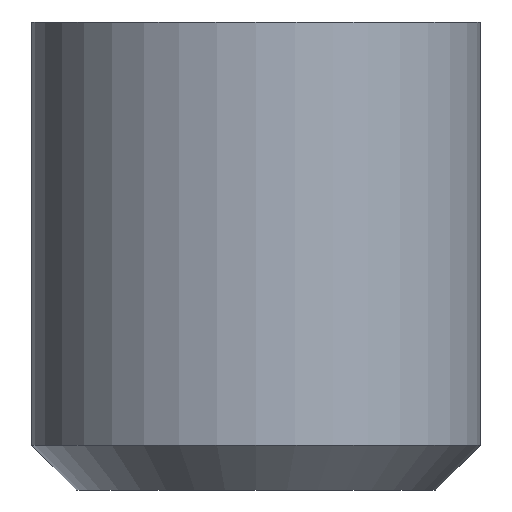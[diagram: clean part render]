
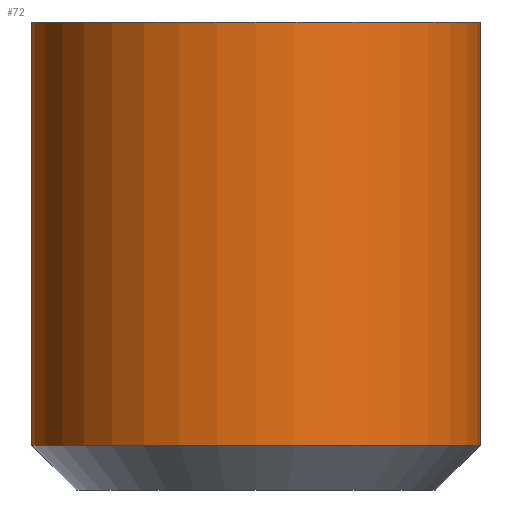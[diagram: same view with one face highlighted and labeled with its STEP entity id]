
A CAD part, front view. The second image highlights one B-rep face of the part: STEP entity #72.
In plain terms, the highlighted cylindrical face has radius 6.526 mm (diameter 13.052 mm), a full revolution.
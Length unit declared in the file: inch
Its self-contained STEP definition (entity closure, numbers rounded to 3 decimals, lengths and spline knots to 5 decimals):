
#60=CYLINDRICAL_SURFACE('',#186,0.25693);
#62=B_SPLINE_CURVE_WITH_KNOTS('',3,(#240,#241,#242,#243,#244,#245,#246,
#247),.UNSPECIFIED.,.F.,.F.,(4,2,2,4),(0.,0.5,0.75,1.),.UNSPECIFIED.);
#63=B_SPLINE_CURVE_WITH_KNOTS('',3,(#252,#253,#254,#255,#256,#257,#258,
#259,#260,#261,#262,#263,#264,#265,#266,#267,#268,#269,#270),
 .UNSPECIFIED.,.F.,.F.,(4,3,3,3,3,3,4),(0.,0.06625,0.13179,
0.2341,0.41432,0.7358,1.),.UNSPECIFIED.);
#64=B_SPLINE_CURVE_WITH_KNOTS('',3,(#272,#273,#274,#275,#276,#277,#278,
#279,#280,#281),.UNSPECIFIED.,.F.,.F.,(4,3,3,4),(0.,0.25,0.5,
1.),.UNSPECIFIED.);
#65=B_SPLINE_CURVE_WITH_KNOTS('',3,(#283,#284,#285,#286,#287,#288,#289,
#290),.UNSPECIFIED.,.F.,.F.,(4,2,2,4),(0.,0.5,0.75,1.),.UNSPECIFIED.);
#66=B_SPLINE_CURVE_WITH_KNOTS('',3,(#294,#295,#296,#297,#298,#299,#300,
#301,#302,#303,#304,#305,#306,#307,#308,#309,#310,#311,#312),
 .UNSPECIFIED.,.F.,.F.,(4,3,3,3,3,3,4),(0.,0.06625,0.13179,
0.2341,0.41432,0.7358,1.),.UNSPECIFIED.);
#67=B_SPLINE_CURVE_WITH_KNOTS('',3,(#314,#315,#316,#317,#318,#319,#320,
#321,#322,#323),.UNSPECIFIED.,.F.,.F.,(4,3,3,4),(0.,0.25,0.5,
1.),.UNSPECIFIED.);
#72=ADVANCED_FACE('',(#85,#86,#87),#60,.T.);
#85=FACE_BOUND('',#94,.T.);
#86=FACE_BOUND('',#95,.T.);
#87=FACE_BOUND('',#96,.T.);
#94=EDGE_LOOP('',(#110,#111,#112,#113,#114,#115,#116,#117));
#95=EDGE_LOOP('',(#118));
#96=EDGE_LOOP('',(#119));
#110=ORIENTED_EDGE('',*,*,#157,.F.);
#111=ORIENTED_EDGE('',*,*,#158,.F.);
#112=ORIENTED_EDGE('',*,*,#159,.F.);
#113=ORIENTED_EDGE('',*,*,#160,.F.);
#114=ORIENTED_EDGE('',*,*,#161,.F.);
#115=ORIENTED_EDGE('',*,*,#162,.F.);
#116=ORIENTED_EDGE('',*,*,#163,.F.);
#117=ORIENTED_EDGE('',*,*,#164,.F.);
#118=ORIENTED_EDGE('',*,*,#165,.T.);
#119=ORIENTED_EDGE('',*,*,#155,.F.);
#142=VERTEX_POINT('',#236);
#144=VERTEX_POINT('',#248);
#145=VERTEX_POINT('',#249);
#146=VERTEX_POINT('',#251);
#147=VERTEX_POINT('',#271);
#148=VERTEX_POINT('',#282);
#149=VERTEX_POINT('',#291);
#150=VERTEX_POINT('',#293);
#151=VERTEX_POINT('',#313);
#152=VERTEX_POINT('',#325);
#155=EDGE_CURVE('',#142,#142,#172,.T.);
#157=EDGE_CURVE('',#144,#145,#62,.T.);
#158=EDGE_CURVE('',#146,#144,#174,.T.);
#159=EDGE_CURVE('',#147,#146,#63,.T.);
#160=EDGE_CURVE('',#148,#147,#64,.T.);
#161=EDGE_CURVE('',#149,#148,#65,.T.);
#162=EDGE_CURVE('',#150,#149,#175,.T.);
#163=EDGE_CURVE('',#151,#150,#66,.T.);
#164=EDGE_CURVE('',#145,#151,#67,.T.);
#165=EDGE_CURVE('',#152,#152,#176,.T.);
#172=CIRCLE('',#180,0.25693);
#174=CIRCLE('',#183,0.25693);
#175=CIRCLE('',#184,0.25693);
#176=CIRCLE('',#185,0.25693);
#180=AXIS2_PLACEMENT_3D('',#235,#197,#198);
#183=AXIS2_PLACEMENT_3D('',#250,#203,#204);
#184=AXIS2_PLACEMENT_3D('',#292,#205,#206);
#185=AXIS2_PLACEMENT_3D('',#324,#207,#208);
#186=AXIS2_PLACEMENT_3D('',#326,#209,#210);
#197=DIRECTION('',(0.,0.,-1.));
#198=DIRECTION('',(-1.,0.,0.));
#203=DIRECTION('',(0.,0.,-1.));
#204=DIRECTION('',(1.,0.,0.));
#205=DIRECTION('',(0.,0.,1.));
#206=DIRECTION('',(-1.,0.,0.));
#207=DIRECTION('',(0.,0.,-1.));
#208=DIRECTION('',(-1.,0.,0.));
#209=DIRECTION('',(0.,0.,-1.));
#210=DIRECTION('',(-1.,0.,0.));
#235=CARTESIAN_POINT('',(0.,0.,0.0513));
#236=CARTESIAN_POINT('',(-0.25693,0.,0.0513));
#240=CARTESIAN_POINT('',(0.01682,0.25638,0.48126));
#241=CARTESIAN_POINT('',(0.0398,0.25487,0.48061));
#242=CARTESIAN_POINT('',(0.06217,0.25032,0.47994));
#243=CARTESIAN_POINT('',(0.09434,0.23925,0.47301));
#244=CARTESIAN_POINT('',(0.10455,0.2349,0.46943));
#245=CARTESIAN_POINT('',(0.12224,0.2262,0.4574));
#246=CARTESIAN_POINT('',(0.12991,0.22167,0.44769));
#247=CARTESIAN_POINT('',(0.12992,0.22166,0.43598));
#248=CARTESIAN_POINT('',(0.01682,0.25638,0.48126));
#249=CARTESIAN_POINT('',(0.12992,0.22166,0.43598));
#250=CARTESIAN_POINT('',(0.,0.,0.48126));
#251=CARTESIAN_POINT('',(-0.01682,0.25638,0.48126));
#252=CARTESIAN_POINT('',(-0.12992,0.22166,0.43598));
#253=CARTESIAN_POINT('',(-0.12991,0.22166,0.43903));
#254=CARTESIAN_POINT('',(-0.12938,0.22198,0.44213));
#255=CARTESIAN_POINT('',(-0.12842,0.22253,0.44497));
#256=CARTESIAN_POINT('',(-0.12745,0.22309,0.44779));
#257=CARTESIAN_POINT('',(-0.12605,0.22389,0.45044));
#258=CARTESIAN_POINT('',(-0.1244,0.2248,0.45281));
#259=CARTESIAN_POINT('',(-0.12184,0.22622,0.4565));
#260=CARTESIAN_POINT('',(-0.11859,0.22796,0.45962));
#261=CARTESIAN_POINT('',(-0.11508,0.22971,0.46222));
#262=CARTESIAN_POINT('',(-0.10891,0.2328,0.46678));
#263=CARTESIAN_POINT('',(-0.10178,0.23604,0.46998));
#264=CARTESIAN_POINT('',(-0.09443,0.23895,0.47241));
#265=CARTESIAN_POINT('',(-0.08138,0.2441,0.47672));
#266=CARTESIAN_POINT('',(-0.06708,0.24845,0.47809));
#267=CARTESIAN_POINT('',(-0.05276,0.25145,0.47925));
#268=CARTESIAN_POINT('',(-0.04094,0.25393,0.48021));
#269=CARTESIAN_POINT('',(-0.0289,0.25559,0.48092));
#270=CARTESIAN_POINT('',(-0.01682,0.25638,0.48126));
#271=CARTESIAN_POINT('',(-0.12992,0.22166,0.43598));
#272=CARTESIAN_POINT('',(-0.12992,0.22166,0.35854));
#273=CARTESIAN_POINT('',(-0.12992,0.22166,0.365));
#274=CARTESIAN_POINT('',(-0.12992,0.22166,0.37145));
#275=CARTESIAN_POINT('',(-0.12992,0.22166,0.3779));
#276=CARTESIAN_POINT('',(-0.12993,0.22166,0.38436));
#277=CARTESIAN_POINT('',(-0.12993,0.22166,0.39081));
#278=CARTESIAN_POINT('',(-0.12993,0.22166,0.39726));
#279=CARTESIAN_POINT('',(-0.12993,0.22166,0.41017));
#280=CARTESIAN_POINT('',(-0.12992,0.22166,0.42308));
#281=CARTESIAN_POINT('',(-0.12992,0.22166,0.43598));
#282=CARTESIAN_POINT('',(-0.12992,0.22166,0.35854));
#283=CARTESIAN_POINT('',(-0.01682,0.25638,0.31327));
#284=CARTESIAN_POINT('',(-0.0398,0.25487,0.31392));
#285=CARTESIAN_POINT('',(-0.06217,0.25032,0.31459));
#286=CARTESIAN_POINT('',(-0.09434,0.23925,0.32152));
#287=CARTESIAN_POINT('',(-0.10455,0.2349,0.3251));
#288=CARTESIAN_POINT('',(-0.12224,0.2262,0.33712));
#289=CARTESIAN_POINT('',(-0.12991,0.22167,0.34684));
#290=CARTESIAN_POINT('',(-0.12992,0.22166,0.35854));
#291=CARTESIAN_POINT('',(-0.01682,0.25638,0.31327));
#292=CARTESIAN_POINT('',(0.,0.,0.31327));
#293=CARTESIAN_POINT('',(0.01682,0.25638,0.31327));
#294=CARTESIAN_POINT('',(0.12992,0.22166,0.35854));
#295=CARTESIAN_POINT('',(0.12991,0.22166,0.35549));
#296=CARTESIAN_POINT('',(0.12938,0.22198,0.3524));
#297=CARTESIAN_POINT('',(0.12842,0.22253,0.34956));
#298=CARTESIAN_POINT('',(0.12745,0.22309,0.34674));
#299=CARTESIAN_POINT('',(0.12605,0.22389,0.34409));
#300=CARTESIAN_POINT('',(0.1244,0.2248,0.34172));
#301=CARTESIAN_POINT('',(0.12184,0.22622,0.33803));
#302=CARTESIAN_POINT('',(0.11859,0.22796,0.3349));
#303=CARTESIAN_POINT('',(0.11508,0.22971,0.33231));
#304=CARTESIAN_POINT('',(0.10891,0.2328,0.32775));
#305=CARTESIAN_POINT('',(0.10178,0.23604,0.32455));
#306=CARTESIAN_POINT('',(0.09443,0.23895,0.32212));
#307=CARTESIAN_POINT('',(0.08138,0.2441,0.31781));
#308=CARTESIAN_POINT('',(0.06708,0.24845,0.31644));
#309=CARTESIAN_POINT('',(0.05276,0.25145,0.31528));
#310=CARTESIAN_POINT('',(0.04094,0.25393,0.31432));
#311=CARTESIAN_POINT('',(0.0289,0.25559,0.31361));
#312=CARTESIAN_POINT('',(0.01682,0.25638,0.31327));
#313=CARTESIAN_POINT('',(0.12992,0.22166,0.35854));
#314=CARTESIAN_POINT('',(0.12992,0.22166,0.43598));
#315=CARTESIAN_POINT('',(0.12992,0.22166,0.42953));
#316=CARTESIAN_POINT('',(0.12992,0.22166,0.42308));
#317=CARTESIAN_POINT('',(0.12992,0.22166,0.41662));
#318=CARTESIAN_POINT('',(0.12993,0.22166,0.41017));
#319=CARTESIAN_POINT('',(0.12993,0.22166,0.40372));
#320=CARTESIAN_POINT('',(0.12993,0.22166,0.39726));
#321=CARTESIAN_POINT('',(0.12993,0.22166,0.38436));
#322=CARTESIAN_POINT('',(0.12992,0.22166,0.37145));
#323=CARTESIAN_POINT('',(0.12992,0.22166,0.35854));
#324=CARTESIAN_POINT('',(0.,0.,0.53591));
#325=CARTESIAN_POINT('',(-0.25693,0.,0.53591));
#326=CARTESIAN_POINT('',(0.,0.,0.));
